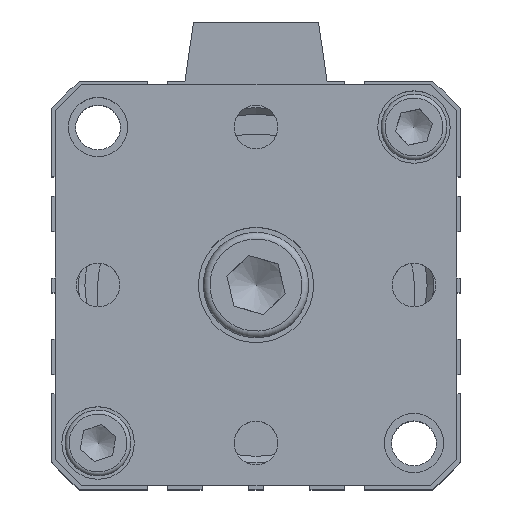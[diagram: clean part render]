
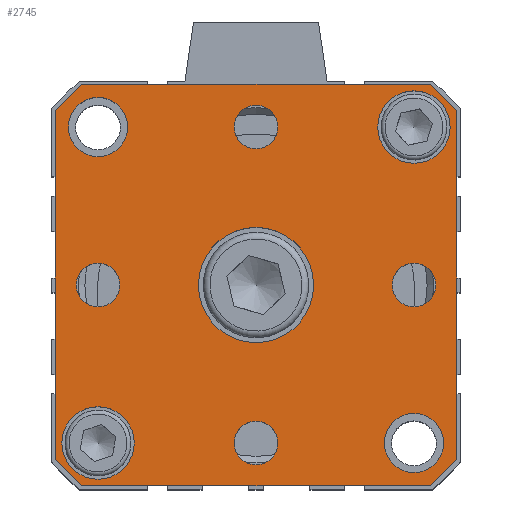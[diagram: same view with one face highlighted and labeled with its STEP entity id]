
A CAD part, top view. The second image highlights one B-rep face of the part: STEP entity #2745.
In plain terms, the highlighted planar face has unit normal (0, 0, 1).
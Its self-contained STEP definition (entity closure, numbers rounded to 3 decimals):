
#365=CARTESIAN_POINT('',(-37.557,28.294,81.6));
#366=VERTEX_POINT('',#365);
#367=CARTESIAN_POINT('',(-33.557,32.294,81.6));
#368=VERTEX_POINT('',#367);
#369=CARTESIAN_POINT('',(-37.557,28.294,81.6));
#370=DIRECTION('',(0.707,0.707,0.0));
#371=VECTOR('',#370,5.657);
#372=LINE('',#369,#371);
#373=EDGE_CURVE('',#366,#368,#372,.T.);
#417=CARTESIAN_POINT('',(19.443,32.294,81.6));
#418=VERTEX_POINT('',#417);
#419=CARTESIAN_POINT('',(-33.557,32.294,81.6));
#420=DIRECTION('',(1.0,0.0,0.0));
#421=VECTOR('',#420,53.);
#422=LINE('',#419,#421);
#423=EDGE_CURVE('',#368,#418,#422,.T.);
#440=CARTESIAN_POINT('',(23.443,28.294,81.6));
#441=VERTEX_POINT('',#440);
#442=CARTESIAN_POINT('',(19.443,32.294,81.6));
#443=DIRECTION('',(0.707,-0.707,0.0));
#444=VECTOR('',#443,5.657);
#445=LINE('',#442,#444);
#446=EDGE_CURVE('',#418,#441,#445,.T.);
#464=CARTESIAN_POINT('',(23.443,-24.706,81.6));
#465=VERTEX_POINT('',#464);
#466=CARTESIAN_POINT('',(19.443,-28.706,81.6));
#467=VERTEX_POINT('',#466);
#468=CARTESIAN_POINT('',(23.443,-24.706,81.6));
#469=DIRECTION('',(-0.707,-0.707,0.0));
#470=VECTOR('',#469,5.657);
#471=LINE('',#468,#470);
#472=EDGE_CURVE('',#465,#467,#471,.T.);
#496=CARTESIAN_POINT('',(-33.557,-28.706,81.6));
#497=VERTEX_POINT('',#496);
#498=CARTESIAN_POINT('',(19.443,-28.706,81.6));
#499=DIRECTION('',(-1.0,0.0,0.0));
#500=VECTOR('',#499,53.);
#501=LINE('',#498,#500);
#502=EDGE_CURVE('',#467,#497,#501,.T.);
#519=CARTESIAN_POINT('',(-37.557,-24.706,81.6));
#520=VERTEX_POINT('',#519);
#521=CARTESIAN_POINT('',(-33.557,-28.706,81.6));
#522=DIRECTION('',(-0.707,0.707,0.0));
#523=VECTOR('',#522,5.657);
#524=LINE('',#521,#523);
#525=EDGE_CURVE('',#497,#520,#524,.T.);
#592=CARTESIAN_POINT('',(1.693,1.794,81.6));
#593=VERTEX_POINT('',#592);
#594=CARTESIAN_POINT('',(-7.057,1.794,81.6));
#595=DIRECTION('',(0.0,0.0,-1.0));
#596=DIRECTION('',(1.0,0.0,0.0));
#597=AXIS2_PLACEMENT_3D('',#594,#595,#596);
#598=CIRCLE('',#597,8.75);
#599=EDGE_CURVE('',#593,#593,#598,.T.);
#711=CARTESIAN_POINT('',(-25.557,-22.206,81.6));
#712=VERTEX_POINT('',#711);
#713=CARTESIAN_POINT('',(-31.057,-22.206,81.6));
#714=DIRECTION('',(0.0,0.0,-1.0));
#715=DIRECTION('',(1.0,0.0,0.0));
#716=AXIS2_PLACEMENT_3D('',#713,#714,#715);
#717=CIRCLE('',#716,5.5);
#718=EDGE_CURVE('',#712,#712,#717,.T.);
#813=CARTESIAN_POINT('',(22.443,25.794,81.6));
#814=VERTEX_POINT('',#813);
#815=CARTESIAN_POINT('',(16.943,25.794,81.6));
#816=DIRECTION('',(0.0,0.0,-1.0));
#817=DIRECTION('',(1.0,0.0,0.0));
#818=AXIS2_PLACEMENT_3D('',#815,#816,#817);
#819=CIRCLE('',#818,5.5);
#820=EDGE_CURVE('',#814,#814,#819,.T.);
#890=CARTESIAN_POINT('',(20.266,1.794,81.6));
#891=VERTEX_POINT('',#890);
#892=CARTESIAN_POINT('',(16.943,1.794,81.6));
#893=DIRECTION('',(0.0,0.0,-1.0));
#894=DIRECTION('',(1.0,0.0,0.0));
#895=AXIS2_PLACEMENT_3D('',#892,#893,#894);
#896=CIRCLE('',#895,3.324);
#897=EDGE_CURVE('',#891,#891,#896,.T.);
#931=CARTESIAN_POINT('',(-3.734,-22.206,81.6));
#932=VERTEX_POINT('',#931);
#933=CARTESIAN_POINT('',(-7.057,-22.206,81.6));
#934=DIRECTION('',(0.0,0.0,-1.0));
#935=DIRECTION('',(1.0,0.0,0.0));
#936=AXIS2_PLACEMENT_3D('',#933,#934,#935);
#937=CIRCLE('',#936,3.324);
#938=EDGE_CURVE('',#932,#932,#937,.T.);
#972=CARTESIAN_POINT('',(-27.734,1.794,81.6));
#973=VERTEX_POINT('',#972);
#974=CARTESIAN_POINT('',(-31.057,1.794,81.6));
#975=DIRECTION('',(0.0,0.0,-1.0));
#976=DIRECTION('',(1.0,0.0,0.0));
#977=AXIS2_PLACEMENT_3D('',#974,#975,#976);
#978=CIRCLE('',#977,3.324);
#979=EDGE_CURVE('',#973,#973,#978,.T.);
#1013=CARTESIAN_POINT('',(-3.734,25.794,81.6));
#1014=VERTEX_POINT('',#1013);
#1015=CARTESIAN_POINT('',(-7.057,25.794,81.6));
#1016=DIRECTION('',(0.0,0.0,-1.0));
#1017=DIRECTION('',(1.0,0.0,0.0));
#1018=AXIS2_PLACEMENT_3D('',#1015,#1016,#1017);
#1019=CIRCLE('',#1018,3.324);
#1020=EDGE_CURVE('',#1014,#1014,#1019,.T.);
#2634=CARTESIAN_POINT('',(21.443,-22.206,81.6));
#2635=VERTEX_POINT('',#2634);
#2636=CARTESIAN_POINT('',(16.943,-22.206,81.6));
#2637=DIRECTION('',(0.0,0.0,-1.0));
#2638=DIRECTION('',(-1.0,0.0,0.0));
#2639=AXIS2_PLACEMENT_3D('',#2636,#2637,#2638);
#2640=CIRCLE('',#2639,4.5);
#2641=EDGE_CURVE('',#2635,#2635,#2640,.T.);
#2654=CARTESIAN_POINT('',(-26.557,25.794,81.6));
#2655=VERTEX_POINT('',#2654);
#2656=CARTESIAN_POINT('',(-31.057,25.794,81.6));
#2657=DIRECTION('',(0.0,0.0,-1.0));
#2658=DIRECTION('',(-1.0,0.0,0.0));
#2659=AXIS2_PLACEMENT_3D('',#2656,#2657,#2658);
#2660=CIRCLE('',#2659,4.5);
#2661=EDGE_CURVE('',#2655,#2655,#2660,.T.);
#2675=CARTESIAN_POINT('',(23.443,28.294,81.6));
#2676=DIRECTION('',(0.0,-1.0,0.0));
#2677=VECTOR('',#2676,53.);
#2678=LINE('',#2675,#2677);
#2679=EDGE_CURVE('',#441,#465,#2678,.T.);
#2694=CARTESIAN_POINT('',(-37.557,-24.706,81.6));
#2695=DIRECTION('',(0.0,1.0,0.0));
#2696=VECTOR('',#2695,53.);
#2697=LINE('',#2694,#2696);
#2698=EDGE_CURVE('',#520,#366,#2697,.T.);
#2703=CARTESIAN_POINT('',(-7.057,1.794,81.6));
#2704=DIRECTION('',(0.0,0.0,1.0));
#2705=DIRECTION('',(1.0,0.0,0.0));
#2706=AXIS2_PLACEMENT_3D('',#2703,#2704,#2705);
#2707=PLANE('',#2706);
#2708=ORIENTED_EDGE('',*,*,#373,.F.);
#2709=ORIENTED_EDGE('',*,*,#2698,.F.);
#2710=ORIENTED_EDGE('',*,*,#525,.F.);
#2711=ORIENTED_EDGE('',*,*,#502,.F.);
#2712=ORIENTED_EDGE('',*,*,#472,.F.);
#2713=ORIENTED_EDGE('',*,*,#2679,.F.);
#2714=ORIENTED_EDGE('',*,*,#446,.F.);
#2715=ORIENTED_EDGE('',*,*,#423,.F.);
#2716=EDGE_LOOP('',(#2708,#2709,#2710,#2711,#2712,#2713,#2714,#2715));
#2717=FACE_OUTER_BOUND('',#2716,.T.);
#2718=ORIENTED_EDGE('',*,*,#599,.T.);
#2719=EDGE_LOOP('',(#2718));
#2720=FACE_BOUND('',#2719,.T.);
#2721=ORIENTED_EDGE('',*,*,#718,.T.);
#2722=EDGE_LOOP('',(#2721));
#2723=FACE_BOUND('',#2722,.T.);
#2724=ORIENTED_EDGE('',*,*,#820,.T.);
#2725=EDGE_LOOP('',(#2724));
#2726=FACE_BOUND('',#2725,.T.);
#2727=ORIENTED_EDGE('',*,*,#897,.T.);
#2728=EDGE_LOOP('',(#2727));
#2729=FACE_BOUND('',#2728,.T.);
#2730=ORIENTED_EDGE('',*,*,#938,.T.);
#2731=EDGE_LOOP('',(#2730));
#2732=FACE_BOUND('',#2731,.T.);
#2733=ORIENTED_EDGE('',*,*,#979,.T.);
#2734=EDGE_LOOP('',(#2733));
#2735=FACE_BOUND('',#2734,.T.);
#2736=ORIENTED_EDGE('',*,*,#1020,.T.);
#2737=EDGE_LOOP('',(#2736));
#2738=FACE_BOUND('',#2737,.T.);
#2739=ORIENTED_EDGE('',*,*,#2641,.T.);
#2740=EDGE_LOOP('',(#2739));
#2741=FACE_BOUND('',#2740,.T.);
#2742=ORIENTED_EDGE('',*,*,#2661,.T.);
#2743=EDGE_LOOP('',(#2742));
#2744=FACE_BOUND('',#2743,.T.);
#2745=ADVANCED_FACE('',(#2717,#2720,#2723,#2726,#2729,#2732,#2735,#2738,#2741,#2744),#2707,.T.);
